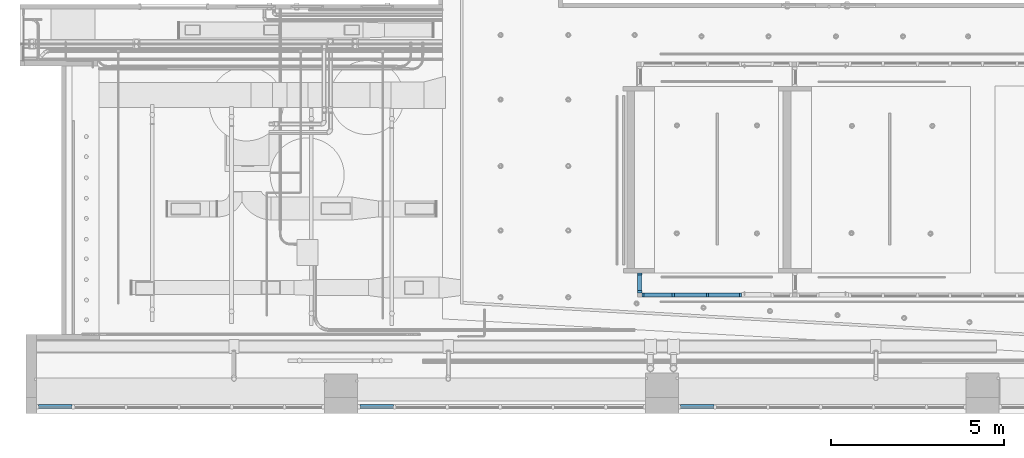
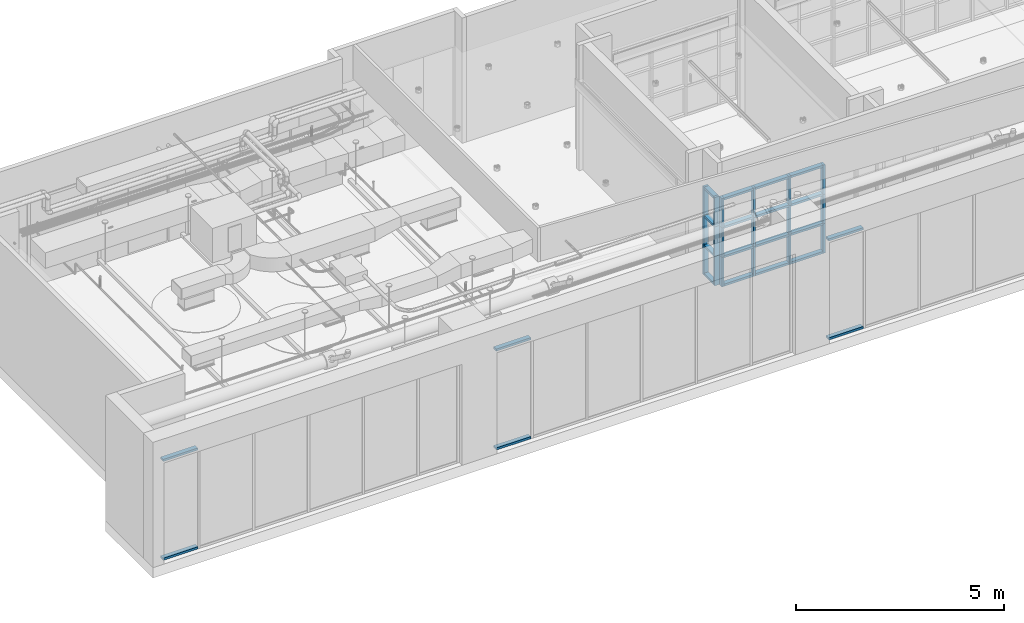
# One storey, part 4 of 108: 40 members, 5 elements without a shape of their own.
"""IFC4 building model written with IfcOpenShell, lengths in feet."""

from ifc_helpers import new_model, entity, si_unit, converted_unit, derived_unit, direction, frame, origin, origin_2d_with_axis, place, context, subcontext, project, spatial, rectangle, extrude, source, transform, mapped, material, material_profile, profile_set, profile_usage, type_object, type_shapes, element, aggregate, save


model = new_model("IFC4")

# Units and contexts
model_context = context("Model", 3, precision=0.0001, world=origin(), true_north=direction((6.12303176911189e-17, 1.0)))
body_context = subcontext(model_context, "Body", "Model", "MODEL_VIEW")
ifc_project = project(units=[converted_unit("LENGTHUNIT", "FOOT", entity("IfcRatioMeasure", 0.3048), si_unit("LENGTHUNIT", "METRE"), dimensions=[1, 0, 0, 0, 0, 0, 0]), converted_unit("AREAUNIT", "SQUARE FOOT", entity("IfcRatioMeasure", 0.09290304), si_unit("AREAUNIT", "SQUARE_METRE"), dimensions=[2, 0, 0, 0, 0, 0, 0]), converted_unit("VOLUMEUNIT", "CUBIC FOOT", entity("IfcRatioMeasure", 0.028316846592), si_unit("VOLUMEUNIT", "CUBIC_METRE"), dimensions=[3, 0, 0, 0, 0, 0, 0]), converted_unit("PLANEANGLEUNIT", "DEGREE", entity("IfcRatioMeasure", 0.0174532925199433), si_unit("PLANEANGLEUNIT", "RADIAN"), dimensions=[0, 0, 0, 0, 0, 0, 0]), si_unit("MASSUNIT", "GRAM", prefix="KILO"), derived_unit("MASSDENSITYUNIT", [(si_unit("MASSUNIT", "GRAM", prefix="KILO"), 1), (si_unit("LENGTHUNIT", "METRE"), -3)]), si_unit("TIMEUNIT", "SECOND"), si_unit("FREQUENCYUNIT", "HERTZ"), si_unit("THERMODYNAMICTEMPERATUREUNIT", "DEGREE_CELSIUS"), derived_unit("THERMALTRANSMITTANCEUNIT", [(si_unit("MASSUNIT", "GRAM", prefix="KILO"), 1), (si_unit("THERMODYNAMICTEMPERATUREUNIT", "KELVIN"), -1), (si_unit("TIMEUNIT", "SECOND"), -3)]), derived_unit("VOLUMETRICFLOWRATEUNIT", [(si_unit("LENGTHUNIT", "METRE"), 3), (si_unit("TIMEUNIT", "SECOND"), -1)]), si_unit("ELECTRICCURRENTUNIT", "AMPERE"), si_unit("ELECTRICVOLTAGEUNIT", "VOLT"), si_unit("POWERUNIT", "WATT"), si_unit("FORCEUNIT", "NEWTON"), si_unit("ILLUMINANCEUNIT", "LUX"), si_unit("LUMINOUSFLUXUNIT", "LUMEN"), si_unit("LUMINOUSINTENSITYUNIT", "CANDELA"), derived_unit("USERDEFINED", [(si_unit("MASSUNIT", "GRAM", prefix="KILO"), -1), (si_unit("LENGTHUNIT", "METRE"), -2), (si_unit("TIMEUNIT", "SECOND"), 3), (si_unit("LUMINOUSFLUXUNIT", "LUMEN"), 1)]), derived_unit("LINEARVELOCITYUNIT", [(si_unit("LENGTHUNIT", "METRE"), 1), (si_unit("TIMEUNIT", "SECOND"), -1)]), si_unit("PRESSUREUNIT", "PASCAL"), derived_unit("USERDEFINED", [(si_unit("LENGTHUNIT", "METRE"), -2), (si_unit("MASSUNIT", "GRAM", prefix="KILO"), 1), (si_unit("TIMEUNIT", "SECOND"), -2)])], contexts=[model_context])

# Site, building, storey
site_placement = place(None, origin())
site = spatial("IfcSite", under=ifc_project, at=site_placement, Name="Default", CompositionType="ELEMENT")
building_placement = place(site_placement, origin())
building = spatial("IfcBuilding", under=site, at=building_placement, CompositionType="ELEMENT")
storey_placement = place(building_placement, frame((0.0, 0.0, 168.0)))
storey = spatial("IfcBuildingStorey", under=building, at=storey_placement, Name="Level 15", CompositionType="ELEMENT", Elevation=168.0)

# Curtain wall, member
curtain_wall_type_1 = type_object("IfcCurtainWallType", Name="Curtain Wall:Storefront", PredefinedType="NOTDEFINED")
curtain_wall_1_placement = place(storey_placement, frame((0.0, 0.0, -168.0)))
curtain_wall_1 = element("IfcCurtainWall", 1, at=curtain_wall_1_placement, inside=storey, type_object=curtain_wall_type_1, Name="Curtain Wall:Storefront", ObjectType="Curtain Wall:Storefront", PredefinedType="NOTDEFINED")
ifc_material = material(Name="Aluminum", Category="Metal")
ifc_material_profile = material_profile(ifc_material, rectangle(XDim=0.416666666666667, YDim=0.208333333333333, at=origin_2d_with_axis()), Name="2.5\" x 5\" rectangular")
ifc_profile_set = profile_set([ifc_material_profile], Name="2.5\" x 5\" rectangular")
ifc_profile_usage_1 = profile_usage(ifc_profile_set)
member_type_1 = type_object("IfcMemberType", Name="2.5\" x 5\" rectangular", PredefinedType="MEMBER", material=ifc_profile_set)
shared_shape_1 = source(origin(), body_context, "Body", "SweptSolid", [
    extrude(rectangle(XDim=0.416666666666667, YDim=0.208333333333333, at=origin_2d_with_axis()), frame((-0.104166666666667, 0.0, -3.16660895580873), z_axis=(0.0, 0.0, 1.0), x_axis=(0.0, -1.0, 0.0)), (0.0, 0.0, 1.0), 3.16660895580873),
])
type_shapes(member_type_1, [shared_shape_1])
member_1_placement = place(storey_placement, frame((2.41046507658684, -22.4324357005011, 9.74877040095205), z_axis=(-1.0, 0.0, 0.0), x_axis=(0.0, 0.0, 1.0)))
member_1 = element("IfcMember", 2, at=member_1_placement, type_object=member_type_1, material=ifc_profile_usage_1, Name="Rectangular Mullion:2.5\" x 5\" rectangular", ObjectType="Rectangular Mullion:2.5\" x 5\" rectangular", PredefinedType="MULLION", context=body_context, shape_type="MappedRepresentation", body=[
    mapped(shared_shape_1, transform((0.0, 0.0, 0.0), scale=1.0)),
])

curtain_wall_2_placement = place(storey_placement, frame((0.0, 0.0, -168.0)))
curtain_wall_2 = element("IfcCurtainWall", 3, at=curtain_wall_2_placement, inside=storey, type_object=curtain_wall_type_1, Name="Curtain Wall:Storefront", ObjectType="Curtain Wall:Storefront", PredefinedType="NOTDEFINED")
ifc_profile_usage_2 = profile_usage(ifc_profile_set)
member_2_placement = place(storey_placement, frame((-27.9228682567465, -22.432435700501, 9.74877040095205), z_axis=(-1.0, 0.0, 0.0), x_axis=(0.0, 0.0, 1.0)))
member_2 = element("IfcMember", 4, at=member_2_placement, type_object=member_type_1, material=ifc_profile_usage_2, Name="Rectangular Mullion:2.5\" x 5\" rectangular", ObjectType="Rectangular Mullion:2.5\" x 5\" rectangular", PredefinedType="MULLION", context=body_context, shape_type="MappedRepresentation", body=[
    mapped(shared_shape_1, transform((0.0, 0.0, 0.0), scale=1.0)),
])

curtain_wall_3_placement = place(storey_placement, frame((0.0, 0.0, -168.0)))
curtain_wall_3 = element("IfcCurtainWall", 5, at=curtain_wall_3_placement, inside=storey, type_object=curtain_wall_type_1, Name="Curtain Wall:Storefront", ObjectType="Curtain Wall:Storefront", PredefinedType="NOTDEFINED")
ifc_profile_usage_3 = profile_usage(ifc_profile_set)
member_3_placement = place(storey_placement, frame((-58.3172823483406, -22.4324357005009, 9.74877040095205), z_axis=(-1.0, 0.0, 0.0), x_axis=(0.0, 0.0, 1.0)))
member_3 = element("IfcMember", 6, at=member_3_placement, type_object=member_type_1, material=ifc_profile_usage_3, Name="Rectangular Mullion:2.5\" x 5\" rectangular", ObjectType="Rectangular Mullion:2.5\" x 5\" rectangular", PredefinedType="MULLION", context=body_context, shape_type="MappedRepresentation", body=[
    mapped(shared_shape_1, transform((0.0, 0.0, 0.0), scale=1.0)),
])

# Member
ifc_profile_usage_4 = profile_usage(ifc_profile_set)
member_type_2 = type_object("IfcMemberType", Name="2.5\" x 5\" rectangular", PredefinedType="MEMBER", material=ifc_profile_set)
shared_shape_2 = source(origin(), body_context, "Body", "SweptSolid", [
    extrude(rectangle(XDim=0.416666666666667, YDim=0.208333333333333, at=origin_2d_with_axis()), frame((-0.104166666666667, 0.0, -3.16660895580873), z_axis=(0.0, 0.0, 1.0), x_axis=(0.0, -1.0, 0.0)), (0.0, 0.0, 1.0), 3.16660895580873),
])
type_shapes(member_type_2, [shared_shape_2])
member_4_placement = place(storey_placement, frame((5.57707403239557, -22.4324357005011, 0.0), z_axis=(1.0, 0.0, 0.0), x_axis=(0.0, 0.0, -1.0)))
member_4 = element("IfcMember", 7, at=member_4_placement, type_object=member_type_2, material=ifc_profile_usage_4, Name="Rectangular Mullion:2.5\" x 5\" rectangular", ObjectType="Rectangular Mullion:2.5\" x 5\" rectangular", PredefinedType="MULLION", context=body_context, shape_type="MappedRepresentation", body=[
    mapped(shared_shape_2, transform((0.0, 0.0, 0.0), scale=1.0)),
])

aggregate(curtain_wall_1, [member_1, member_4])

ifc_profile_usage_5 = profile_usage(ifc_profile_set)
member_5_placement = place(storey_placement, frame((-24.7562593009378, -22.432435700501, 0.0), z_axis=(1.0, 0.0, 0.0), x_axis=(0.0, 0.0, -1.0)))
member_5 = element("IfcMember", 8, at=member_5_placement, type_object=member_type_2, material=ifc_profile_usage_5, Name="Rectangular Mullion:2.5\" x 5\" rectangular", ObjectType="Rectangular Mullion:2.5\" x 5\" rectangular", PredefinedType="MULLION", context=body_context, shape_type="MappedRepresentation", body=[
    mapped(shared_shape_2, transform((0.0, 0.0, 0.0), scale=1.0)),
])

aggregate(curtain_wall_2, [member_2, member_5])

ifc_profile_usage_6 = profile_usage(ifc_profile_set)
member_6_placement = place(storey_placement, frame((-55.1506733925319, -22.4324357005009, 0.0), z_axis=(1.0, 0.0, 0.0), x_axis=(0.0, 0.0, -1.0)))
member_6 = element("IfcMember", 9, at=member_6_placement, type_object=member_type_2, material=ifc_profile_usage_6, Name="Rectangular Mullion:2.5\" x 5\" rectangular", ObjectType="Rectangular Mullion:2.5\" x 5\" rectangular", PredefinedType="MULLION", context=body_context, shape_type="MappedRepresentation", body=[
    mapped(shared_shape_2, transform((0.0, 0.0, 0.0), scale=1.0)),
])

aggregate(curtain_wall_3, [member_3, member_6])

# Curtain wall, members
curtain_wall_type_2 = type_object("IfcCurtainWallType", Name="Curtain Wall:Storefront 02", PredefinedType="NOTDEFINED")
curtain_wall_4_placement = place(storey_placement, frame((0.0, 0.0, -168.0)))
curtain_wall_4 = element("IfcCurtainWall", 10, at=curtain_wall_4_placement, inside=storey, type_object=curtain_wall_type_2, Name="Curtain Wall:Storefront 02", ObjectType="Curtain Wall:Storefront 02", PredefinedType="NOTDEFINED")
ifc_profile_usage_7 = profile_usage(ifc_profile_set)
member_type_3 = type_object("IfcMemberType", Name="2.5\" x 5\" rectangular", PredefinedType="MEMBER", material=ifc_profile_set)
shared_shape_3 = source(origin(), body_context, "Body", "SweptSolid", [
    extrude(rectangle(XDim=0.416666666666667, YDim=0.208333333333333, at=origin_2d_with_axis()), frame((-0.104166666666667, 0.0, -1.47864472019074), z_axis=(0.0, 0.0, 1.0), x_axis=(0.0, -1.0, 0.0)), (0.0, 0.0, 1.0), 1.47864472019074),
])
type_shapes(member_type_3, [shared_shape_3])
member_7_placement = place(storey_placement, frame((-1.45313140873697, -11.463603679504, 8.52282482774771), z_axis=(0.0, -1.0, 0.0), x_axis=(0.0, 0.0, 1.0)))
member_7 = element("IfcMember", 11, at=member_7_placement, type_object=member_type_3, material=ifc_profile_usage_7, Name="Rectangular Mullion:2.5\" x 5\" rectangular", ObjectType="Rectangular Mullion:2.5\" x 5\" rectangular", PredefinedType="MULLION", context=body_context, shape_type="MappedRepresentation", body=[
    mapped(shared_shape_3, transform((0.0, 0.0, 0.0), scale=1.0)),
])
ifc_profile_usage_8 = profile_usage(ifc_profile_set)
member_type_4 = type_object("IfcMemberType", Name="2.5\" x 5\" rectangular", PredefinedType="MEMBER", material=ifc_profile_set)
shared_shape_4 = source(origin(), body_context, "Body", "SweptSolid", [
    extrude(rectangle(XDim=0.416666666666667, YDim=0.208333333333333, at=origin_2d_with_axis()), frame((-0.104166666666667, 0.0, -1.47864472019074), z_axis=(0.0, 0.0, 1.0), x_axis=(0.0, -1.0, 0.0)), (0.0, 0.0, 1.0), 1.47864472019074),
])
type_shapes(member_type_4, [shared_shape_4])
member_8_placement = place(storey_placement, frame((-1.45313140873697, -9.98460105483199, 0.0), z_axis=(0.0, 1.0, 0.0), x_axis=(0.0, 0.0, -1.0)))
member_8 = element("IfcMember", 12, at=member_8_placement, type_object=member_type_4, material=ifc_profile_usage_8, Name="Rectangular Mullion:2.5\" x 5\" rectangular", ObjectType="Rectangular Mullion:2.5\" x 5\" rectangular", PredefinedType="MULLION", context=body_context, shape_type="MappedRepresentation", body=[
    mapped(shared_shape_4, transform((0.0, 0.0, 0.0), scale=1.0)),
])

# Curtain wall, member
curtain_wall_5_placement = place(storey_placement, frame((0.0, 0.0, -168.0)))
curtain_wall_5 = element("IfcCurtainWall", 13, at=curtain_wall_5_placement, inside=storey, type_object=curtain_wall_type_2, Name="Curtain Wall:Storefront 02", ObjectType="Curtain Wall:Storefront 02", PredefinedType="NOTDEFINED")
ifc_profile_usage_9 = profile_usage(ifc_profile_set)
member_type_5 = type_object("IfcMemberType", Name="2.5\" x 5\" rectangular", PredefinedType="MEMBER", material=ifc_profile_set)
shared_shape_5 = source(origin(), body_context, "Body", "SweptSolid", [
    extrude(rectangle(XDim=0.416666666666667, YDim=0.208333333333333, at=origin_2d_with_axis()), frame((-0.104166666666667, 0.0, -2.84094160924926), z_axis=(0.0, 0.0, 1.0), x_axis=(0.0, -1.0, 0.0)), (0.0, 0.0, 1.0), 2.84094160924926),
])
type_shapes(member_type_5, [shared_shape_5])
member_9_placement = place(storey_placement, frame((-1.24479807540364, -11.8802703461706, 0.0), z_axis=(0.0, 0.0, -1.0), x_axis=(-1.0, 0.0, 0.0)))
member_9 = element("IfcMember", 14, at=member_9_placement, type_object=member_type_5, material=ifc_profile_usage_9, Name="Rectangular Mullion:2.5\" x 5\" rectangular", ObjectType="Rectangular Mullion:2.5\" x 5\" rectangular", PredefinedType="MULLION", context=body_context, shape_type="MappedRepresentation", body=[
    mapped(shared_shape_5, transform((0.0, 0.0, 0.0), scale=1.0)),
])

# Member
ifc_profile_usage_10 = profile_usage(ifc_profile_set)
member_10_placement = place(storey_placement, frame((-1.45313140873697, -11.6719370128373, 0.0), z_axis=(0.0, 0.0, -1.0), x_axis=(0.0, -1.0, 0.0)))
member_10 = element("IfcMember", 15, at=member_10_placement, type_object=member_type_5, material=ifc_profile_usage_10, Name="Rectangular Mullion:2.5\" x 5\" rectangular", ObjectType="Rectangular Mullion:2.5\" x 5\" rectangular", PredefinedType="MULLION", context=body_context, shape_type="MappedRepresentation", body=[
    mapped(shared_shape_5, transform((0.0, 0.0, 0.0), scale=1.0)),
])

ifc_profile_usage_11 = profile_usage(ifc_profile_set)
member_type_6 = type_object("IfcMemberType", Name="2.5\" x 5\" rectangular", PredefinedType="MEMBER", material=ifc_profile_set)
shared_shape_6 = source(origin(), body_context, "Body", "SweptSolid", [
    extrude(rectangle(XDim=0.416666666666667, YDim=0.208333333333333, at=origin_2d_with_axis()), frame((-0.104166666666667, 0.0, -2.84094160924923), z_axis=(0.0, 0.0, 1.0), x_axis=(0.0, -1.0, 0.0)), (0.0, 0.0, 1.0), 2.84094160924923),
])
type_shapes(member_type_6, [shared_shape_6])
member_11_placement = place(storey_placement, frame((-1.45313140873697, -9.77626772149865, 8.52282482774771), z_axis=(0.0, 0.0, 1.0), x_axis=(0.0, 1.0, 0.0)))
member_11 = element("IfcMember", 16, at=member_11_placement, type_object=member_type_6, material=ifc_profile_usage_11, Name="Rectangular Mullion:2.5\" x 5\" rectangular", ObjectType="Rectangular Mullion:2.5\" x 5\" rectangular", PredefinedType="MULLION", context=body_context, shape_type="MappedRepresentation", body=[
    mapped(shared_shape_6, transform((0.0, 0.0, 0.0), scale=1.0)),
])

ifc_profile_usage_12 = profile_usage(ifc_profile_set)
member_type_7 = type_object("IfcMemberType", Name="2.5\" x 5\" rectangular", PredefinedType="MEMBER", material=ifc_profile_set)
shared_shape_7 = source(origin(), body_context, "Body", "SweptSolid", [
    extrude(rectangle(XDim=0.416666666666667, YDim=0.208333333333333, at=origin_2d_with_axis()), frame((-0.104166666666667, 0.0, -2.84094160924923), z_axis=(0.0, 0.0, 1.0), x_axis=(0.0, -1.0, 0.0)), (0.0, 0.0, 1.0), 2.84094160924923),
])
type_shapes(member_type_7, [shared_shape_7])
member_12_placement = place(storey_placement, frame((-1.24479807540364, -11.8802703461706, 5.68188321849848), z_axis=(0.0, 0.0, -1.0), x_axis=(-1.0, 0.0, 0.0)))
member_12 = element("IfcMember", 17, at=member_12_placement, type_object=member_type_7, material=ifc_profile_usage_12, Name="Rectangular Mullion:2.5\" x 5\" rectangular", ObjectType="Rectangular Mullion:2.5\" x 5\" rectangular", PredefinedType="MULLION", context=body_context, shape_type="MappedRepresentation", body=[
    mapped(shared_shape_7, transform((0.0, 0.0, 0.0), scale=1.0)),
])

ifc_profile_usage_13 = profile_usage(ifc_profile_set)
member_13_placement = place(storey_placement, frame((-1.45313140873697, -11.6719370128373, 5.68188321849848), z_axis=(0.0, 0.0, -1.0), x_axis=(0.0, -1.0, 0.0)))
member_13 = element("IfcMember", 18, at=member_13_placement, type_object=member_type_7, material=ifc_profile_usage_13, Name="Rectangular Mullion:2.5\" x 5\" rectangular", ObjectType="Rectangular Mullion:2.5\" x 5\" rectangular", PredefinedType="MULLION", context=body_context, shape_type="MappedRepresentation", body=[
    mapped(shared_shape_7, transform((0.0, 0.0, 0.0), scale=1.0)),
])

ifc_profile_usage_14 = profile_usage(ifc_profile_set)
member_type_8 = type_object("IfcMemberType", Name="2.5\" x 5\" rectangular", PredefinedType="MEMBER", material=ifc_profile_set)
shared_shape_8 = source(origin(), body_context, "Body", "SweptSolid", [
    extrude(rectangle(XDim=0.416666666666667, YDim=0.208333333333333, at=origin_2d_with_axis()), frame((-0.104166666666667, 0.0, -2.84094160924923), z_axis=(0.0, 0.0, 1.0), x_axis=(0.0, -1.0, 0.0)), (0.0, 0.0, 1.0), 2.84094160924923),
])
type_shapes(member_type_8, [shared_shape_8])
member_14_placement = place(storey_placement, frame((-1.45313140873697, -9.77626772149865, 5.68188321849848), z_axis=(0.0, 0.0, 1.0), x_axis=(0.0, 1.0, 0.0)))
member_14 = element("IfcMember", 19, at=member_14_placement, type_object=member_type_8, material=ifc_profile_usage_14, Name="Rectangular Mullion:2.5\" x 5\" rectangular", ObjectType="Rectangular Mullion:2.5\" x 5\" rectangular", PredefinedType="MULLION", context=body_context, shape_type="MappedRepresentation", body=[
    mapped(shared_shape_8, transform((0.0, 0.0, 0.0), scale=1.0)),
])

ifc_profile_usage_15 = profile_usage(ifc_profile_set)
member_type_9 = type_object("IfcMemberType", Name="2.5\" x 5\" rectangular", PredefinedType="MEMBER", material=ifc_profile_set)
shared_shape_9 = source(origin(), body_context, "Body", "SweptSolid", [
    extrude(rectangle(XDim=0.416666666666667, YDim=0.208333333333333, at=origin_2d_with_axis()), frame((0.0, 0.0, -1.47864472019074), z_axis=(0.0, 0.0, 1.0), x_axis=(0.0, -1.0, 0.0)), (0.0, 0.0, 1.0), 1.47864472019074),
])
type_shapes(member_type_9, [shared_shape_9])
member_15_placement = place(storey_placement, frame((-1.45313140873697, -11.463603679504, 5.68188321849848), z_axis=(0.0, -1.0, 0.0), x_axis=(0.0, 0.0, 1.0)))
member_15 = element("IfcMember", 20, at=member_15_placement, type_object=member_type_9, material=ifc_profile_usage_15, Name="Rectangular Mullion:2.5\" x 5\" rectangular", ObjectType="Rectangular Mullion:2.5\" x 5\" rectangular", PredefinedType="MULLION", context=body_context, shape_type="MappedRepresentation", body=[
    mapped(shared_shape_9, transform((0.0, 0.0, 0.0), scale=1.0)),
])

ifc_profile_usage_16 = profile_usage(ifc_profile_set)
member_16_placement = place(storey_placement, frame((-1.45313140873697, -11.463603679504, 2.84094160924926), z_axis=(0.0, -1.0, 0.0), x_axis=(0.0, 0.0, 1.0)))
member_16 = element("IfcMember", 21, at=member_16_placement, type_object=member_type_9, material=ifc_profile_usage_16, Name="Rectangular Mullion:2.5\" x 5\" rectangular", ObjectType="Rectangular Mullion:2.5\" x 5\" rectangular", PredefinedType="MULLION", context=body_context, shape_type="MappedRepresentation", body=[
    mapped(shared_shape_9, transform((0.0, 0.0, 0.0), scale=1.0)),
])

ifc_profile_usage_17 = profile_usage(ifc_profile_set)
member_type_10 = type_object("IfcMemberType", Name="2.5\" x 5\" rectangular", PredefinedType="MEMBER", material=ifc_profile_set)
shared_shape_10 = source(origin(), body_context, "Body", "SweptSolid", [
    extrude(rectangle(XDim=0.416666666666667, YDim=0.208333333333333, at=origin_2d_with_axis()), frame((-0.104166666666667, 0.0, -2.84094160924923), z_axis=(0.0, 0.0, 1.0), x_axis=(0.0, -1.0, 0.0)), (0.0, 0.0, 1.0), 2.84094160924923),
])
type_shapes(member_type_10, [shared_shape_10])
member_17_placement = place(storey_placement, frame((-1.24479807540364, -11.8802703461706, 2.84094160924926), z_axis=(0.0, 0.0, -1.0), x_axis=(-1.0, 0.0, 0.0)))
member_17 = element("IfcMember", 22, at=member_17_placement, type_object=member_type_10, material=ifc_profile_usage_17, Name="Rectangular Mullion:2.5\" x 5\" rectangular", ObjectType="Rectangular Mullion:2.5\" x 5\" rectangular", PredefinedType="MULLION", context=body_context, shape_type="MappedRepresentation", body=[
    mapped(shared_shape_10, transform((0.0, 0.0, 0.0), scale=1.0)),
])

ifc_profile_usage_18 = profile_usage(ifc_profile_set)
member_18_placement = place(storey_placement, frame((-1.45313140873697, -11.6719370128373, 2.84094160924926), z_axis=(0.0, 0.0, -1.0), x_axis=(0.0, -1.0, 0.0)))
member_18 = element("IfcMember", 23, at=member_18_placement, type_object=member_type_10, material=ifc_profile_usage_18, Name="Rectangular Mullion:2.5\" x 5\" rectangular", ObjectType="Rectangular Mullion:2.5\" x 5\" rectangular", PredefinedType="MULLION", context=body_context, shape_type="MappedRepresentation", body=[
    mapped(shared_shape_10, transform((0.0, 0.0, 0.0), scale=1.0)),
])

ifc_profile_usage_19 = profile_usage(ifc_profile_set)
member_type_11 = type_object("IfcMemberType", Name="2.5\" x 5\" rectangular", PredefinedType="MEMBER", material=ifc_profile_set)
shared_shape_11 = source(origin(), body_context, "Body", "SweptSolid", [
    extrude(rectangle(XDim=0.416666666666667, YDim=0.208333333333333, at=origin_2d_with_axis()), frame((-0.104166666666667, 0.0, -2.84094160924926), z_axis=(0.0, 0.0, 1.0), x_axis=(0.0, -1.0, 0.0)), (0.0, 0.0, 1.0), 2.84094160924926),
])
type_shapes(member_type_11, [shared_shape_11])
member_19_placement = place(storey_placement, frame((-1.45313140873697, -9.77626772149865, 2.84094160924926), z_axis=(0.0, 0.0, 1.0), x_axis=(0.0, 1.0, 0.0)))
member_19 = element("IfcMember", 24, at=member_19_placement, type_object=member_type_11, material=ifc_profile_usage_19, Name="Rectangular Mullion:2.5\" x 5\" rectangular", ObjectType="Rectangular Mullion:2.5\" x 5\" rectangular", PredefinedType="MULLION", context=body_context, shape_type="MappedRepresentation", body=[
    mapped(shared_shape_11, transform((0.0, 0.0, 0.0), scale=1.0)),
])

aggregate(curtain_wall_4, [member_7, member_8, member_10, member_11, member_13, member_14, member_15, member_18, member_19, member_16])

ifc_profile_usage_20 = profile_usage(ifc_profile_set)
member_type_12 = type_object("IfcMemberType", Name="2.5\" x 5\" rectangular", PredefinedType="MEMBER", material=ifc_profile_set)
shared_shape_12 = source(origin(), body_context, "Body", "SweptSolid", [
    extrude(rectangle(XDim=0.416666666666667, YDim=0.208333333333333, at=origin_2d_with_axis()), frame((0.0, 0.0, -2.84094160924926), z_axis=(0.0, 0.0, 1.0), x_axis=(0.0, -1.0, 0.0)), (0.0, 0.0, 1.0), 2.84094160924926),
])
type_shapes(member_type_12, [shared_shape_12])
member_20_placement = place(storey_placement, frame((8.0887039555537, -11.8802703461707, 0.0), z_axis=(0.0, 0.0, -1.0), x_axis=(-1.0, 0.0, 0.0)))
member_20 = element("IfcMember", 25, at=member_20_placement, type_object=member_type_12, material=ifc_profile_usage_20, Name="Rectangular Mullion:2.5\" x 5\" rectangular", ObjectType="Rectangular Mullion:2.5\" x 5\" rectangular", PredefinedType="MULLION", context=body_context, shape_type="MappedRepresentation", body=[
    mapped(shared_shape_12, transform((0.0, 0.0, 0.0), scale=1.0)),
])

ifc_profile_usage_21 = profile_usage(ifc_profile_set)
member_21_placement = place(storey_placement, frame((4.97753661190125, -11.8802703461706, 0.0), z_axis=(0.0, 0.0, -1.0), x_axis=(-1.0, 0.0, 0.0)))
member_21 = element("IfcMember", 26, at=member_21_placement, type_object=member_type_12, material=ifc_profile_usage_21, Name="Rectangular Mullion:2.5\" x 5\" rectangular", ObjectType="Rectangular Mullion:2.5\" x 5\" rectangular", PredefinedType="MULLION", context=body_context, shape_type="MappedRepresentation", body=[
    mapped(shared_shape_12, transform((0.0, 0.0, 0.0), scale=1.0)),
])

ifc_profile_usage_22 = profile_usage(ifc_profile_set)
member_22_placement = place(storey_placement, frame((1.73436859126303, -11.8802703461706, 0.0), z_axis=(0.0, 0.0, -1.0), x_axis=(-1.0, 0.0, 0.0)))
member_22 = element("IfcMember", 27, at=member_22_placement, type_object=member_type_12, material=ifc_profile_usage_22, Name="Rectangular Mullion:2.5\" x 5\" rectangular", ObjectType="Rectangular Mullion:2.5\" x 5\" rectangular", PredefinedType="MULLION", context=body_context, shape_type="MappedRepresentation", body=[
    mapped(shared_shape_12, transform((0.0, 0.0, 0.0), scale=1.0)),
])

ifc_profile_usage_23 = profile_usage(ifc_profile_set)
member_type_13 = type_object("IfcMemberType", Name="2.5\" x 5\" rectangular", PredefinedType="MEMBER", material=ifc_profile_set)
shared_shape_13 = source(origin(), body_context, "Body", "SweptSolid", [
    extrude(rectangle(XDim=0.416666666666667, YDim=0.208333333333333, at=origin_2d_with_axis()), frame((0.0, 0.0, -2.84094160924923), z_axis=(0.0, 0.0, 1.0), x_axis=(0.0, -1.0, 0.0)), (0.0, 0.0, 1.0), 2.84094160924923),
])
type_shapes(member_type_13, [shared_shape_13])
member_23_placement = place(storey_placement, frame((8.0887039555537, -11.8802703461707, 5.68188321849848), z_axis=(0.0, 0.0, -1.0), x_axis=(-1.0, 0.0, 0.0)))
member_23 = element("IfcMember", 28, at=member_23_placement, type_object=member_type_13, material=ifc_profile_usage_23, Name="Rectangular Mullion:2.5\" x 5\" rectangular", ObjectType="Rectangular Mullion:2.5\" x 5\" rectangular", PredefinedType="MULLION", context=body_context, shape_type="MappedRepresentation", body=[
    mapped(shared_shape_13, transform((0.0, 0.0, 0.0), scale=1.0)),
])

ifc_profile_usage_24 = profile_usage(ifc_profile_set)
member_24_placement = place(storey_placement, frame((4.97753661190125, -11.8802703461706, 5.68188321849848), z_axis=(0.0, 0.0, -1.0), x_axis=(-1.0, 0.0, 0.0)))
member_24 = element("IfcMember", 29, at=member_24_placement, type_object=member_type_13, material=ifc_profile_usage_24, Name="Rectangular Mullion:2.5\" x 5\" rectangular", ObjectType="Rectangular Mullion:2.5\" x 5\" rectangular", PredefinedType="MULLION", context=body_context, shape_type="MappedRepresentation", body=[
    mapped(shared_shape_13, transform((0.0, 0.0, 0.0), scale=1.0)),
])

ifc_profile_usage_25 = profile_usage(ifc_profile_set)
member_25_placement = place(storey_placement, frame((1.73436859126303, -11.8802703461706, 5.68188321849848), z_axis=(0.0, 0.0, -1.0), x_axis=(-1.0, 0.0, 0.0)))
member_25 = element("IfcMember", 30, at=member_25_placement, type_object=member_type_13, material=ifc_profile_usage_25, Name="Rectangular Mullion:2.5\" x 5\" rectangular", ObjectType="Rectangular Mullion:2.5\" x 5\" rectangular", PredefinedType="MULLION", context=body_context, shape_type="MappedRepresentation", body=[
    mapped(shared_shape_13, transform((0.0, 0.0, 0.0), scale=1.0)),
])

ifc_profile_usage_26 = profile_usage(ifc_profile_set)
member_type_14 = type_object("IfcMemberType", Name="2.5\" x 5\" rectangular", PredefinedType="MEMBER", material=ifc_profile_set)
shared_shape_14 = source(origin(), body_context, "Body", "SweptSolid", [
    extrude(rectangle(XDim=0.416666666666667, YDim=0.208333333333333, at=origin_2d_with_axis()), frame((0.0, 0.0, -2.84094160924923), z_axis=(0.0, 0.0, 1.0), x_axis=(0.0, -1.0, 0.0)), (0.0, 0.0, 1.0), 2.84094160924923),
])
type_shapes(member_type_14, [shared_shape_14])
member_26_placement = place(storey_placement, frame((8.0887039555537, -11.8802703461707, 2.84094160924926), z_axis=(0.0, 0.0, -1.0), x_axis=(-1.0, 0.0, 0.0)))
member_26 = element("IfcMember", 31, at=member_26_placement, type_object=member_type_14, material=ifc_profile_usage_26, Name="Rectangular Mullion:2.5\" x 5\" rectangular", ObjectType="Rectangular Mullion:2.5\" x 5\" rectangular", PredefinedType="MULLION", context=body_context, shape_type="MappedRepresentation", body=[
    mapped(shared_shape_14, transform((0.0, 0.0, 0.0), scale=1.0)),
])

ifc_profile_usage_27 = profile_usage(ifc_profile_set)
member_27_placement = place(storey_placement, frame((4.97753661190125, -11.8802703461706, 2.84094160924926), z_axis=(0.0, 0.0, -1.0), x_axis=(-1.0, 0.0, 0.0)))
member_27 = element("IfcMember", 32, at=member_27_placement, type_object=member_type_14, material=ifc_profile_usage_27, Name="Rectangular Mullion:2.5\" x 5\" rectangular", ObjectType="Rectangular Mullion:2.5\" x 5\" rectangular", PredefinedType="MULLION", context=body_context, shape_type="MappedRepresentation", body=[
    mapped(shared_shape_14, transform((0.0, 0.0, 0.0), scale=1.0)),
])

ifc_profile_usage_28 = profile_usage(ifc_profile_set)
member_28_placement = place(storey_placement, frame((1.73436859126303, -11.8802703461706, 2.84094160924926), z_axis=(0.0, 0.0, -1.0), x_axis=(-1.0, 0.0, 0.0)))
member_28 = element("IfcMember", 33, at=member_28_placement, type_object=member_type_14, material=ifc_profile_usage_28, Name="Rectangular Mullion:2.5\" x 5\" rectangular", ObjectType="Rectangular Mullion:2.5\" x 5\" rectangular", PredefinedType="MULLION", context=body_context, shape_type="MappedRepresentation", body=[
    mapped(shared_shape_14, transform((0.0, 0.0, 0.0), scale=1.0)),
])

ifc_profile_usage_29 = profile_usage(ifc_profile_set)
member_type_15 = type_object("IfcMemberType", Name="2.5\" x 5\" rectangular", PredefinedType="MEMBER", material=ifc_profile_set)
shared_shape_15 = source(origin(), body_context, "Body", "SweptSolid", [
    extrude(rectangle(XDim=0.416666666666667, YDim=0.208333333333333, at=origin_2d_with_axis()), frame((-0.104166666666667, 0.0, -2.66666666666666), z_axis=(0.0, 0.0, 1.0), x_axis=(0.0, -1.0, 0.0)), (0.0, 0.0, 1.0), 2.66666666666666),
])
type_shapes(member_type_15, [shared_shape_15])
member_29_placement = place(storey_placement, frame((-1.0364647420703, -11.8802703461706, 8.52282482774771), z_axis=(-1.0, 0.0, 0.0), x_axis=(0.0, 0.0, 1.0)))
member_29 = element("IfcMember", 34, at=member_29_placement, type_object=member_type_15, material=ifc_profile_usage_29, Name="Rectangular Mullion:2.5\" x 5\" rectangular", ObjectType="Rectangular Mullion:2.5\" x 5\" rectangular", PredefinedType="MULLION", context=body_context, shape_type="MappedRepresentation", body=[
    mapped(shared_shape_15, transform((0.0, 0.0, 0.0), scale=1.0)),
])

ifc_profile_usage_30 = profile_usage(ifc_profile_set)
member_type_16 = type_object("IfcMemberType", Name="2.5\" x 5\" rectangular", PredefinedType="MEMBER", material=ifc_profile_set)
shared_shape_16 = source(origin(), body_context, "Body", "SweptSolid", [
    extrude(rectangle(XDim=0.416666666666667, YDim=0.208333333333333, at=origin_2d_with_axis()), frame((-0.104166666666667, 0.0, -2.90283401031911), z_axis=(0.0, 0.0, 1.0), x_axis=(0.0, -1.0, 0.0)), (0.0, 0.0, 1.0), 2.90283401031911),
])
type_shapes(member_type_16, [shared_shape_16])
member_30_placement = place(storey_placement, frame((7.98453728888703, -11.8802703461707, 0.0), z_axis=(1.0, 0.0, 0.0), x_axis=(0.0, 0.0, -1.0)))
member_30 = element("IfcMember", 35, at=member_30_placement, type_object=member_type_16, material=ifc_profile_usage_30, Name="Rectangular Mullion:2.5\" x 5\" rectangular", ObjectType="Rectangular Mullion:2.5\" x 5\" rectangular", PredefinedType="MULLION", context=body_context, shape_type="MappedRepresentation", body=[
    mapped(shared_shape_16, transform((0.0, 0.0, 0.0), scale=1.0)),
])

ifc_profile_usage_31 = profile_usage(ifc_profile_set)
member_type_17 = type_object("IfcMemberType", Name="2.5\" x 5\" rectangular", PredefinedType="MEMBER", material=ifc_profile_set)
shared_shape_17 = source(origin(), body_context, "Body", "SweptSolid", [
    extrude(rectangle(XDim=0.416666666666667, YDim=0.208333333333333, at=origin_2d_with_axis()), frame((0.0, 0.0, -2.90283401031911), z_axis=(0.0, 0.0, 1.0), x_axis=(0.0, -1.0, 0.0)), (0.0, 0.0, 1.0), 2.90283401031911),
])
type_shapes(member_type_17, [shared_shape_17])
member_31_placement = place(storey_placement, frame((5.08170327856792, -11.8802703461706, 5.68188321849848), z_axis=(-1.0, 0.0, 0.0), x_axis=(0.0, 0.0, 1.0)))
member_31 = element("IfcMember", 36, at=member_31_placement, type_object=member_type_17, material=ifc_profile_usage_31, Name="Rectangular Mullion:2.5\" x 5\" rectangular", ObjectType="Rectangular Mullion:2.5\" x 5\" rectangular", PredefinedType="MULLION", context=body_context, shape_type="MappedRepresentation", body=[
    mapped(shared_shape_17, transform((0.0, 0.0, 0.0), scale=1.0)),
])

ifc_profile_usage_32 = profile_usage(ifc_profile_set)
member_32_placement = place(storey_placement, frame((5.08170327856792, -11.8802703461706, 2.84094160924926), z_axis=(-1.0, 0.0, 0.0), x_axis=(0.0, 0.0, 1.0)))
member_32 = element("IfcMember", 37, at=member_32_placement, type_object=member_type_17, material=ifc_profile_usage_32, Name="Rectangular Mullion:2.5\" x 5\" rectangular", ObjectType="Rectangular Mullion:2.5\" x 5\" rectangular", PredefinedType="MULLION", context=body_context, shape_type="MappedRepresentation", body=[
    mapped(shared_shape_17, transform((0.0, 0.0, 0.0), scale=1.0)),
])

ifc_profile_usage_33 = profile_usage(ifc_profile_set)
member_type_18 = type_object("IfcMemberType", Name="2.5\" x 5\" rectangular", PredefinedType="MEMBER", material=ifc_profile_set)
shared_shape_18 = source(origin(), body_context, "Body", "SweptSolid", [
    extrude(rectangle(XDim=0.416666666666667, YDim=0.208333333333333, at=origin_2d_with_axis()), frame((-0.104166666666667, 0.0, -2.90283401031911), z_axis=(0.0, 0.0, 1.0), x_axis=(0.0, -1.0, 0.0)), (0.0, 0.0, 1.0), 2.90283401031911),
])
type_shapes(member_type_18, [shared_shape_18])
member_33_placement = place(storey_placement, frame((5.08170327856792, -11.8802703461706, 8.52282482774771), z_axis=(-1.0, 0.0, 0.0), x_axis=(0.0, 0.0, 1.0)))
member_33 = element("IfcMember", 38, at=member_33_placement, type_object=member_type_18, material=ifc_profile_usage_33, Name="Rectangular Mullion:2.5\" x 5\" rectangular", ObjectType="Rectangular Mullion:2.5\" x 5\" rectangular", PredefinedType="MULLION", context=body_context, shape_type="MappedRepresentation", body=[
    mapped(shared_shape_18, transform((0.0, 0.0, 0.0), scale=1.0)),
])

ifc_profile_usage_34 = profile_usage(ifc_profile_set)
member_type_19 = type_object("IfcMemberType", Name="2.5\" x 5\" rectangular", PredefinedType="MEMBER", material=ifc_profile_set)
shared_shape_19 = source(origin(), body_context, "Body", "SweptSolid", [
    extrude(rectangle(XDim=0.416666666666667, YDim=0.208333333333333, at=origin_2d_with_axis()), frame((-0.104166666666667, 0.0, -3.03483468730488), z_axis=(0.0, 0.0, 1.0), x_axis=(0.0, -1.0, 0.0)), (0.0, 0.0, 1.0), 3.03483468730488),
])
type_shapes(member_type_19, [shared_shape_19])
member_34_placement = place(storey_placement, frame((4.87336994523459, -11.8802703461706, 0.0), z_axis=(1.0, 0.0, 0.0), x_axis=(0.0, 0.0, -1.0)))
member_34 = element("IfcMember", 39, at=member_34_placement, type_object=member_type_19, material=ifc_profile_usage_34, Name="Rectangular Mullion:2.5\" x 5\" rectangular", ObjectType="Rectangular Mullion:2.5\" x 5\" rectangular", PredefinedType="MULLION", context=body_context, shape_type="MappedRepresentation", body=[
    mapped(shared_shape_19, transform((0.0, 0.0, 0.0), scale=1.0)),
])

ifc_profile_usage_35 = profile_usage(ifc_profile_set)
member_type_20 = type_object("IfcMemberType", Name="2.5\" x 5\" rectangular", PredefinedType="MEMBER", material=ifc_profile_set)
shared_shape_20 = source(origin(), body_context, "Body", "SweptSolid", [
    extrude(rectangle(XDim=0.416666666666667, YDim=0.208333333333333, at=origin_2d_with_axis()), frame((0.0, 0.0, -3.03483468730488), z_axis=(0.0, 0.0, 1.0), x_axis=(0.0, -1.0, 0.0)), (0.0, 0.0, 1.0), 3.03483468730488),
])
type_shapes(member_type_20, [shared_shape_20])
member_35_placement = place(storey_placement, frame((1.8385352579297, -11.8802703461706, 2.84094160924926), z_axis=(-1.0, 0.0, 0.0), x_axis=(0.0, 0.0, 1.0)))
member_35 = element("IfcMember", 40, at=member_35_placement, type_object=member_type_20, material=ifc_profile_usage_35, Name="Rectangular Mullion:2.5\" x 5\" rectangular", ObjectType="Rectangular Mullion:2.5\" x 5\" rectangular", PredefinedType="MULLION", context=body_context, shape_type="MappedRepresentation", body=[
    mapped(shared_shape_20, transform((0.0, 0.0, 0.0), scale=1.0)),
])

ifc_profile_usage_36 = profile_usage(ifc_profile_set)
member_36_placement = place(storey_placement, frame((1.8385352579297, -11.8802703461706, 5.68188321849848), z_axis=(-1.0, 0.0, 0.0), x_axis=(0.0, 0.0, 1.0)))
member_36 = element("IfcMember", 41, at=member_36_placement, type_object=member_type_20, material=ifc_profile_usage_36, Name="Rectangular Mullion:2.5\" x 5\" rectangular", ObjectType="Rectangular Mullion:2.5\" x 5\" rectangular", PredefinedType="MULLION", context=body_context, shape_type="MappedRepresentation", body=[
    mapped(shared_shape_20, transform((0.0, 0.0, 0.0), scale=1.0)),
])

ifc_profile_usage_37 = profile_usage(ifc_profile_set)
member_type_21 = type_object("IfcMemberType", Name="2.5\" x 5\" rectangular", PredefinedType="MEMBER", material=ifc_profile_set)
shared_shape_21 = source(origin(), body_context, "Body", "SweptSolid", [
    extrude(rectangle(XDim=0.416666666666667, YDim=0.208333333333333, at=origin_2d_with_axis()), frame((-0.104166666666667, 0.0, -3.03483468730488), z_axis=(0.0, 0.0, 1.0), x_axis=(0.0, -1.0, 0.0)), (0.0, 0.0, 1.0), 3.03483468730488),
])
type_shapes(member_type_21, [shared_shape_21])
member_37_placement = place(storey_placement, frame((1.8385352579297, -11.8802703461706, 8.52282482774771), z_axis=(-1.0, 0.0, 0.0), x_axis=(0.0, 0.0, 1.0)))
member_37 = element("IfcMember", 42, at=member_37_placement, type_object=member_type_21, material=ifc_profile_usage_37, Name="Rectangular Mullion:2.5\" x 5\" rectangular", ObjectType="Rectangular Mullion:2.5\" x 5\" rectangular", PredefinedType="MULLION", context=body_context, shape_type="MappedRepresentation", body=[
    mapped(shared_shape_21, transform((0.0, 0.0, 0.0), scale=1.0)),
])

ifc_profile_usage_38 = profile_usage(ifc_profile_set)
member_type_22 = type_object("IfcMemberType", Name="2.5\" x 5\" rectangular", PredefinedType="MEMBER", material=ifc_profile_set)
shared_shape_22 = source(origin(), body_context, "Body", "SweptSolid", [
    extrude(rectangle(XDim=0.416666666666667, YDim=0.208333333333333, at=origin_2d_with_axis()), frame((-0.104166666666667, 0.0, -2.66666666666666), z_axis=(0.0, 0.0, 1.0), x_axis=(0.0, -1.0, 0.0)), (0.0, 0.0, 1.0), 2.66666666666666),
])
type_shapes(member_type_22, [shared_shape_22])
member_38_placement = place(storey_placement, frame((1.63020192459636, -11.8802703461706, 0.0), z_axis=(1.0, 0.0, 0.0), x_axis=(0.0, 0.0, -1.0)))
member_38 = element("IfcMember", 43, at=member_38_placement, type_object=member_type_22, material=ifc_profile_usage_38, Name="Rectangular Mullion:2.5\" x 5\" rectangular", ObjectType="Rectangular Mullion:2.5\" x 5\" rectangular", PredefinedType="MULLION", context=body_context, shape_type="MappedRepresentation", body=[
    mapped(shared_shape_22, transform((0.0, 0.0, 0.0), scale=1.0)),
])

ifc_profile_usage_39 = profile_usage(ifc_profile_set)
member_type_23 = type_object("IfcMemberType", Name="2.5\" x 5\" rectangular", PredefinedType="MEMBER", material=ifc_profile_set)
shared_shape_23 = source(origin(), body_context, "Body", "SweptSolid", [
    extrude(rectangle(XDim=0.416666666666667, YDim=0.208333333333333, at=origin_2d_with_axis()), frame((0.0, 0.0, -2.66666666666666), z_axis=(0.0, 0.0, 1.0), x_axis=(0.0, -1.0, 0.0)), (0.0, 0.0, 1.0), 2.66666666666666),
])
type_shapes(member_type_23, [shared_shape_23])
member_39_placement = place(storey_placement, frame((-1.0364647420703, -11.8802703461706, 2.84094160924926), z_axis=(-1.0, 0.0, 0.0), x_axis=(0.0, 0.0, 1.0)))
member_39 = element("IfcMember", 44, at=member_39_placement, type_object=member_type_23, material=ifc_profile_usage_39, Name="Rectangular Mullion:2.5\" x 5\" rectangular", ObjectType="Rectangular Mullion:2.5\" x 5\" rectangular", PredefinedType="MULLION", context=body_context, shape_type="MappedRepresentation", body=[
    mapped(shared_shape_23, transform((0.0, 0.0, 0.0), scale=1.0)),
])

ifc_profile_usage_40 = profile_usage(ifc_profile_set)
member_40_placement = place(storey_placement, frame((-1.0364647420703, -11.8802703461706, 5.68188321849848), z_axis=(-1.0, 0.0, 0.0), x_axis=(0.0, 0.0, 1.0)))
member_40 = element("IfcMember", 45, at=member_40_placement, type_object=member_type_23, material=ifc_profile_usage_40, Name="Rectangular Mullion:2.5\" x 5\" rectangular", ObjectType="Rectangular Mullion:2.5\" x 5\" rectangular", PredefinedType="MULLION", context=body_context, shape_type="MappedRepresentation", body=[
    mapped(shared_shape_23, transform((0.0, 0.0, 0.0), scale=1.0)),
])

aggregate(curtain_wall_5, [member_29, member_9, member_30, member_20, member_12, member_31, member_23, member_17, member_32, member_26, member_33, member_34, member_35, member_36, member_21, member_27, member_24, member_37, member_38, member_39, member_40, member_22, member_28, member_25])

save(model, "model.ifc")
